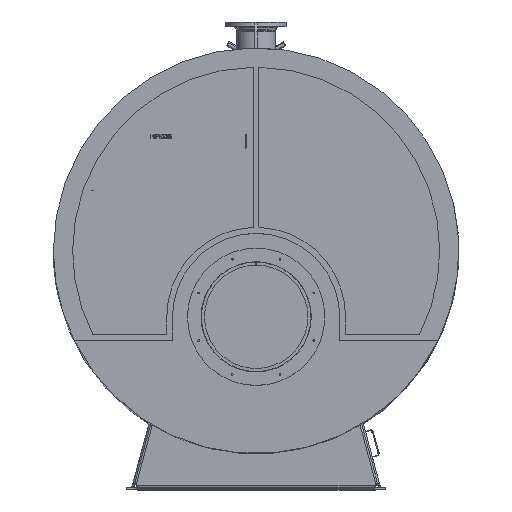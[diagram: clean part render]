
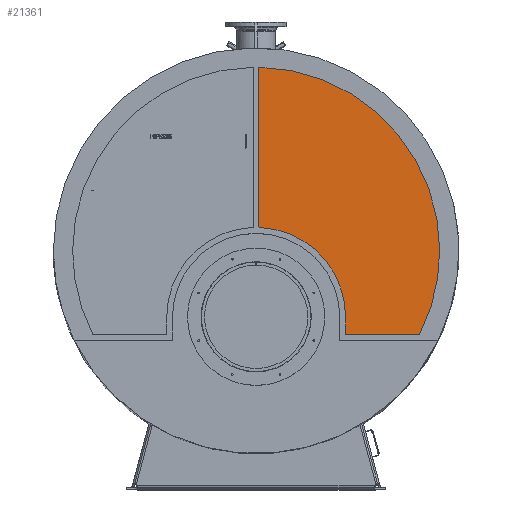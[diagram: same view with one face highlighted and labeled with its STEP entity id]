
A CAD part, top view. The second image highlights one B-rep face of the part: STEP entity #21361.
In plain terms, the highlighted planar face has unit normal (0, 0, 1).
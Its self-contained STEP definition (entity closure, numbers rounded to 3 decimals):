
#21167=CARTESIAN_POINT('',(15.,1022.784,283.));
#21168=VERTEX_POINT('',#21167);
#21169=CARTESIAN_POINT('',(15.,136.565,283.));
#21170=VERTEX_POINT('',#21169);
#21171=CARTESIAN_POINT('',(15.,1022.784,283.));
#21172=DIRECTION('',(-0.,-1.,0.));
#21173=VECTOR('',#21172,886.22);
#21174=LINE('',#21171,#21173);
#21175=EDGE_CURVE('',#21168,#21170,#21174,.T.);
#21198=CARTESIAN_POINT('',(20.751,130.57,283.));
#21199=VERTEX_POINT('',#21198);
#21200=CARTESIAN_POINT('',(501.,-370.,283.));
#21201=VERTEX_POINT('',#21200);
#21202=CARTESIAN_POINT('',(0.,-370.,283.));
#21203=DIRECTION('',(0.,0.,-1.));
#21204=DIRECTION('',(1.,0.,0.));
#21205=AXIS2_PLACEMENT_3D('',#21202,#21203,#21204);
#21206=CIRCLE('',#21205,501.);
#21207=EDGE_CURVE('',#21199,#21201,#21206,.T.);
#21231=CARTESIAN_POINT('',(501.,-463.,283.));
#21232=VERTEX_POINT('',#21231);
#21239=CARTESIAN_POINT('',(501.,-370.,283.));
#21240=DIRECTION('',(-0.,-1.,0.));
#21241=VECTOR('',#21240,93.);
#21242=LINE('',#21239,#21241);
#21243=EDGE_CURVE('',#21201,#21232,#21242,.T.);
#21255=CARTESIAN_POINT('',(912.228,-469.,283.));
#21256=VERTEX_POINT('',#21255);
#21263=CARTESIAN_POINT('',(507.,-469.,283.));
#21264=VERTEX_POINT('',#21263);
#21265=CARTESIAN_POINT('',(507.,-469.,283.));
#21266=DIRECTION('',(1.,0.,-0.));
#21267=VECTOR('',#21266,405.228);
#21268=LINE('',#21265,#21267);
#21269=EDGE_CURVE('',#21264,#21256,#21268,.T.);
#21285=CARTESIAN_POINT('',(1029.,-0.,283.));
#21286=VERTEX_POINT('',#21285);
#21294=CARTESIAN_POINT('',(21.123,1028.783,283.));
#21295=VERTEX_POINT('',#21294);
#21302=CARTESIAN_POINT('',(0.,0.,283.));
#21303=DIRECTION('',(0.,0.,1.));
#21304=DIRECTION('',(1.,0.,-0.));
#21305=AXIS2_PLACEMENT_3D('',#21302,#21303,#21304);
#21306=CIRCLE('',#21305,1029.);
#21307=EDGE_CURVE('',#21286,#21295,#21306,.T.);
#21312=CARTESIAN_POINT('',(0.,-370.,283.));
#21313=DIRECTION('',(0.,0.,-1.));
#21314=DIRECTION('',(-1.,0.,0.));
#21315=AXIS2_PLACEMENT_3D('',#21312,#21313,#21314);
#21316=PLANE('',#21315);
#21317=CARTESIAN_POINT('',(917.578,-465.716,283.));
#21318=VERTEX_POINT('',#21317);
#21319=CARTESIAN_POINT('',(0.,0.,283.));
#21320=DIRECTION('',(0.,0.,1.));
#21321=DIRECTION('',(1.,0.,-0.));
#21322=AXIS2_PLACEMENT_3D('',#21319,#21320,#21321);
#21323=CIRCLE('',#21322,1029.);
#21324=EDGE_CURVE('',#21318,#21286,#21323,.T.);
#21325=ORIENTED_EDGE('',*,*,#21324,.T.);
#21326=ORIENTED_EDGE('',*,*,#21307,.T.);
#21327=CARTESIAN_POINT('',(21.,1022.784,283.));
#21328=DIRECTION('',(-0.,-0.,1.));
#21329=DIRECTION('',(-1.,0.,0.));
#21330=AXIS2_PLACEMENT_3D('',#21327,#21328,#21329);
#21331=CIRCLE('',#21330,6.);
#21332=EDGE_CURVE('',#21295,#21168,#21331,.T.);
#21333=ORIENTED_EDGE('',*,*,#21332,.T.);
#21334=ORIENTED_EDGE('',*,*,#21175,.T.);
#21335=CARTESIAN_POINT('',(21.,136.565,283.));
#21336=DIRECTION('',(-0.,-0.,1.));
#21337=DIRECTION('',(-1.,0.,0.));
#21338=AXIS2_PLACEMENT_3D('',#21335,#21336,#21337);
#21339=CIRCLE('',#21338,6.);
#21340=EDGE_CURVE('',#21170,#21199,#21339,.T.);
#21341=ORIENTED_EDGE('',*,*,#21340,.T.);
#21342=ORIENTED_EDGE('',*,*,#21207,.T.);
#21343=ORIENTED_EDGE('',*,*,#21243,.T.);
#21344=CARTESIAN_POINT('',(507.,-463.,283.));
#21345=DIRECTION('',(-0.,-0.,1.));
#21346=DIRECTION('',(-1.,0.,0.));
#21347=AXIS2_PLACEMENT_3D('',#21344,#21345,#21346);
#21348=CIRCLE('',#21347,6.);
#21349=EDGE_CURVE('',#21232,#21264,#21348,.T.);
#21350=ORIENTED_EDGE('',*,*,#21349,.T.);
#21351=ORIENTED_EDGE('',*,*,#21269,.T.);
#21352=CARTESIAN_POINT('',(912.228,-463.,283.));
#21353=DIRECTION('',(-0.,-0.,1.));
#21354=DIRECTION('',(-1.,0.,0.));
#21355=AXIS2_PLACEMENT_3D('',#21352,#21353,#21354);
#21356=CIRCLE('',#21355,6.);
#21357=EDGE_CURVE('',#21256,#21318,#21356,.T.);
#21358=ORIENTED_EDGE('',*,*,#21357,.T.);
#21359=EDGE_LOOP('',(#21325,#21326,#21333,#21334,#21341,#21342,#21343,#21350,#21351,#21358));
#21360=FACE_BOUND('',#21359,.T.);
#21361=ADVANCED_FACE('',(#21360),#21316,.F.);
